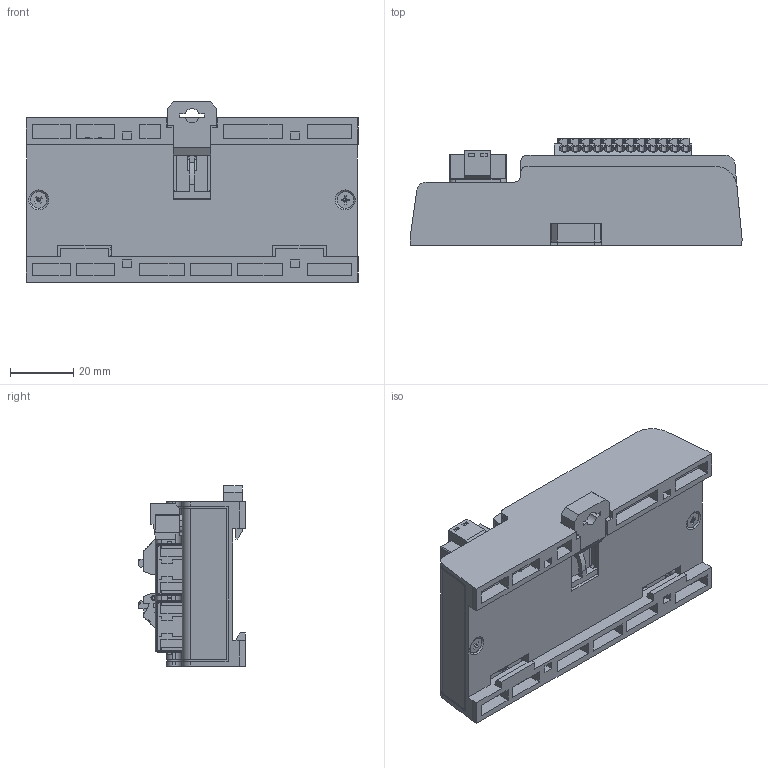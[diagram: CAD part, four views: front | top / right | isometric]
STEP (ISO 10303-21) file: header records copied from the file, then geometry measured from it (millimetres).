
FILE_DESCRIPTION (( 'STEP AP203' ), '1' );
FILE_NAME ('P118-DR-000-04-R00.STEP', '2019-06-24T09:25:41', ( '' ), ( '' ), 'SwSTEP 2.0', 'SolidWorks 2013', '' );
FILE_SCHEMA (( 'CONFIG_CONTROL_DESIGN' ));
Length unit declared in the file: millimetre
Products named in the file (21): P118-DR-000-04-R00; 3017615508; 瞪錳薄樓醴喀攪-1; MC421-38102; 瞪錳薄樓醴喀攪-2; cheese slotted head_ks_KS 1021 CS - M2.5 x 5-N; 瞪錳薄樓醴喀攪-3; cheese slotted head_ks_KS 1021 CS - M1.6 x 3-N; 瞪錳薄樓醴喀攪-4; 瞪錳薄樓醴喀攪-5; M118-DR-000-01-R00_1; M118-DR-000-07-R00; 瞪錳蕾樓攪喀攪; M118-DR-000-03-R00_1; ptsa1.5-12-3.5-f; pan cross head_ks_KS 1023 PC- M2.6 x 6-N; EtherCAT IO PCB1-02-1; pxc_1985069_04_PTSA-1-5-12-3-5-F_3D; countersunk flat cross head screw_ks_KS 1023 FC- M2.6 x 6-N; EtherCAT IO PCB2-02-1
Assembly tree (28 placements, depth 3):
  P118-DR-000-04-R00
    M118-DR-000-01-R00_1
    M118-DR-000-03-R00_1
    EtherCAT IO PCB1-02-1
    EtherCAT IO PCB2-02-1
    瞪錳蕾樓攪喀攪
      瞪錳薄樓醴喀攪-1
      瞪錳薄樓醴喀攪-2
      瞪錳薄樓醴喀攪-3
      瞪錳薄樓醴喀攪-4
      瞪錳薄樓醴喀攪-5
    pan cross head_ks_KS 1023 PC- M2.6 x 6-N  x4
    countersunk flat cross head screw_ks_KS 1023 FC- M2.6 x 6-N  x2
    3017615508  x2
    MC421-38102
      MC421-38102
      cheese slotted head_ks_KS 1021 CS - M2.5 x 5-N  x2
      cheese slotted head_ks_KS 1021 CS - M1.6 x 3-N  x2
    M118-DR-000-07-R00
    pxc_1985069_04_PTSA-1-5-12-3-5-F_3D  x2
      ptsa1.5-12-3.5-f
Bounding box: 105 x 33.8 x 57 mm (x, y, z)
Volume: 60150.6 mm3; surface area: 71394.5 mm2
Topology: 25 solids, 25 shells, 4002 faces, 11165 edges, 7261 vertices
Faces by surface type: plane 2730, cylinder 982, cone 212, bspline 70, sphere 8
Entity records: 79818 total; most frequent: CARTESIAN_POINT 17543, ORIENTED_EDGE 13142, DIRECTION 11499, EDGE_CURVE 6571, LINE 4901, VECTOR 4901, VERTEX_POINT 4293, AXIS2_PLACEMENT_3D 3299
